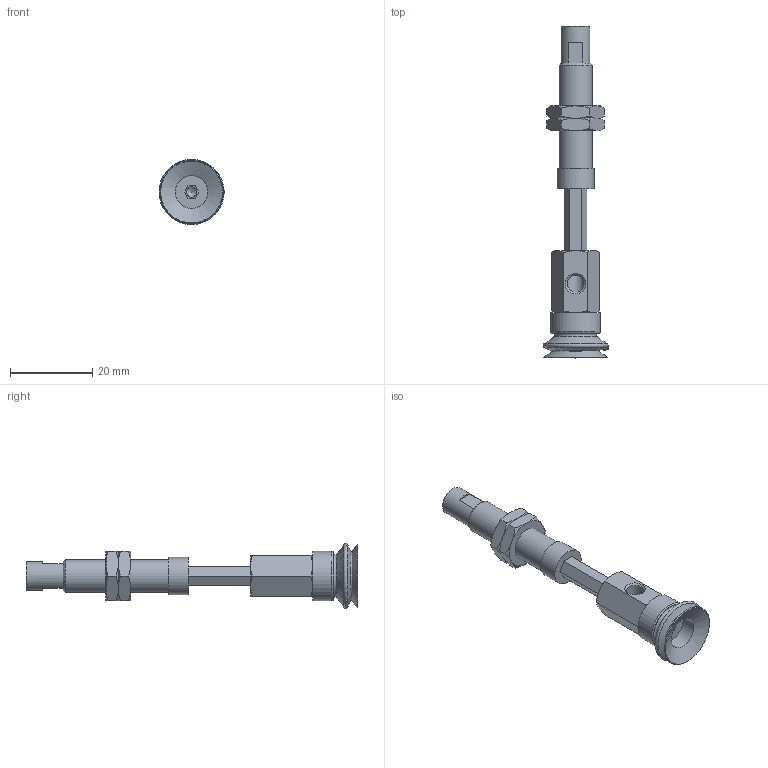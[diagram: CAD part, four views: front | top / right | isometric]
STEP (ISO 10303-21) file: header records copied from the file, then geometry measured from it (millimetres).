
FILE_DESCRIPTION(('STEP AP203'),'1');
FILE_NAME('.stp','2025-04-24T06:45:55',(' '),(' '),'Spatial InterOp 3D',' ',' ');
FILE_SCHEMA(('CONFIG_CONTROL_DESIGN'));
Length unit declared in the file: millimetre
Products named in the file (7): BNABPJYH-15-15-※; Adapter-15-NAPJ; CONNECTOR_H-15-15; NAPJH-15-15-NUT; NAPJTH-15-15-FBODY; NAPJTH-15-15-MBODY; BPJG-15-※
Assembly tree (7 placements, depth 2):
  BNABPJYH-15-15-※
    Adapter-15-NAPJ
    CONNECTOR_H-15-15
    NAPJH-15-15-NUT  x2
    NAPJTH-15-15-FBODY
    NAPJTH-15-15-MBODY
    BPJG-15-※
Bounding box: 15.99 x 80.5 x 15.78 mm (x, y, z)
Volume: 4882.3 mm3; surface area: 5423.5 mm2
Topology: 7 solids, 7 shells, 164 faces, 362 edges, 218 vertices
Faces by surface type: plane 72, cone 58, cylinder 15, torus 9, bspline 6, sphere 4
Full cylindrical faces by diameter (mm): 2.5 x1, 4.134 x3, 4.6 x1, 5 x2, 7 x1, 7.188 x2, 7.9 x1, 8 x2, 9 x1, 12 x1
Entity records: 4398 total; most frequent: CARTESIAN_POINT 1195, DIRECTION 592, ORIENTED_EDGE 530, EDGE_CURVE 265, AXIS2_PLACEMENT_3D 244, EDGE_LOOP 195, VERTEX_POINT 181, FACE_OUTER_BOUND 162
